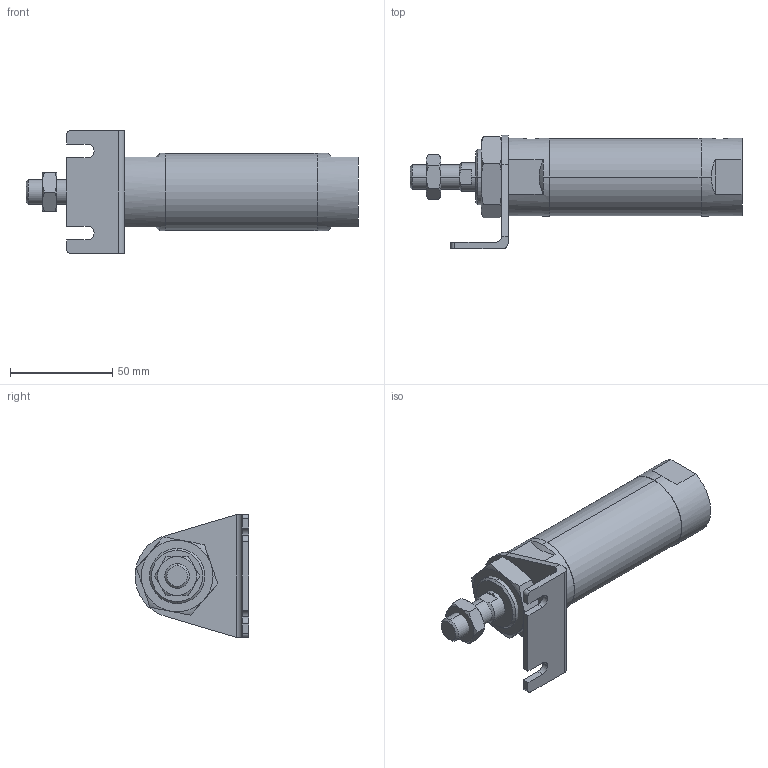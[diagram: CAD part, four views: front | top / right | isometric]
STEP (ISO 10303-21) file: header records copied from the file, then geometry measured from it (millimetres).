
FILE_DESCRIPTION (( 'STEP AP203' ), '1' );
FILE_NAME ('JGND2-32-25-L.STEP', '2016-08-04T02:47:12', ( '' ), ( '' ), 'SwSTEP 2.0', 'SolidWorks 2014', '' );
FILE_SCHEMA (( 'CONFIG_CONTROL_DESIGN' ));
Length unit declared in the file: millimetre
Products named in the file (5): J#2-32-L; J#2-32-25(P); JGND2-32-25-L
Assembly tree (4 placements, depth 2):
  JGND2-32-25-L
    J#2-32-25(P)
    (unnamed)
    (unnamed)
    J#2-32-L
Bounding box: 162 x 55.5 x 60 mm (x, y, z)
Volume: 154002.1 mm3; surface area: 31263.2 mm2
Topology: 4 solids, 4 shells, 116 faces, 273 edges, 167 vertices
Faces by surface type: plane 47, cylinder 32, torus 24, cone 13
Entity records: 4285 total; most frequent: CARTESIAN_POINT 1166, DIRECTION 548, ORIENTED_EDGE 538, EDGE_CURVE 269, AXIS2_PLACEMENT_3D 219, VERTEX_POINT 167, EDGE_LOOP 128, FACE_OUTER_BOUND 116
